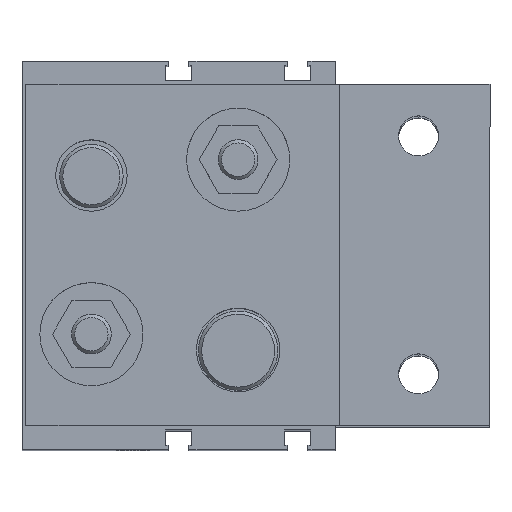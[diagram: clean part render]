
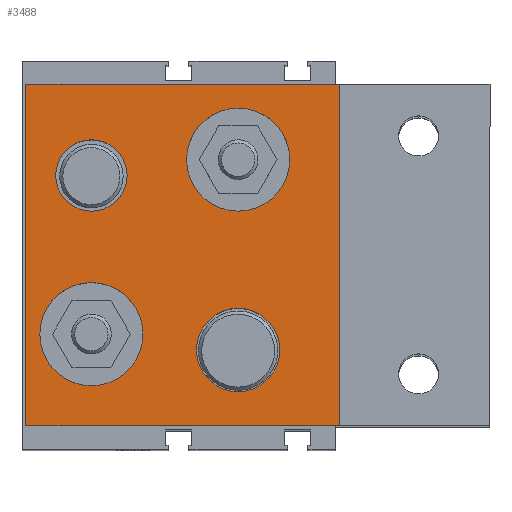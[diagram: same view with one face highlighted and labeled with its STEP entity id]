
A CAD part, top view. The second image highlights one B-rep face of the part: STEP entity #3488.
In plain terms, the highlighted planar face has unit normal (0, 0, 1) as drawn and (-1, 0, 0) by its records, which use the part's own axes.
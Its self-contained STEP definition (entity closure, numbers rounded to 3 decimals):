
#2447=CARTESIAN_POINT('',(-14.,63.5,29.5));
#2448=VERTEX_POINT('',#2447);
#2449=CARTESIAN_POINT('',(-14.,63.5,19.));
#2450=DIRECTION('',(1.0,0.0,0.0));
#2451=DIRECTION('',(0.0,0.0,1.0));
#2452=AXIS2_PLACEMENT_3D('',#2449,#2450,#2451);
#2453=CIRCLE('',#2452,10.5);
#2454=EDGE_CURVE('',#2448,#2448,#2453,.T.);
#3179=CARTESIAN_POINT('',(-14.,100.5,36.0));
#3180=VERTEX_POINT('',#3179);
#3181=CARTESIAN_POINT('',(-14.,100.5,23.));
#3182=DIRECTION('',(1.0,0.0,0.0));
#3183=DIRECTION('',(0.0,0.0,1.0));
#3184=AXIS2_PLACEMENT_3D('',#3181,#3182,#3183);
#3185=CIRCLE('',#3184,13.0);
#3186=EDGE_CURVE('',#3180,#3180,#3185,.T.);
#3224=CARTESIAN_POINT('',(-14.,63.5,80.0));
#3225=VERTEX_POINT('',#3224);
#3226=CARTESIAN_POINT('',(-14.,63.5,67.0));
#3227=DIRECTION('',(1.0,0.0,0.0));
#3228=DIRECTION('',(0.0,0.0,1.0));
#3229=AXIS2_PLACEMENT_3D('',#3226,#3227,#3228);
#3230=CIRCLE('',#3229,13.0);
#3231=EDGE_CURVE('',#3225,#3225,#3230,.T.);
#3255=CARTESIAN_POINT('',(-14.,100.5,72.0));
#3256=VERTEX_POINT('',#3255);
#3257=CARTESIAN_POINT('',(-14.,100.5,63.));
#3258=DIRECTION('',(1.0,0.0,0.0));
#3259=DIRECTION('',(0.0,0.0,1.0));
#3260=AXIS2_PLACEMENT_3D('',#3257,#3258,#3259);
#3261=CIRCLE('',#3260,9.0);
#3262=EDGE_CURVE('',#3256,#3256,#3261,.T.);
#3272=CARTESIAN_POINT('',(-14.,117.,86.0));
#3273=VERTEX_POINT('',#3272);
#3290=CARTESIAN_POINT('',(-14.,117.,0.0));
#3291=VERTEX_POINT('',#3290);
#3298=CARTESIAN_POINT('',(-14.,117.,0.0));
#3299=DIRECTION('',(0.0,0.0,1.0));
#3300=VECTOR('',#3299,86.0);
#3301=LINE('',#3298,#3300);
#3302=EDGE_CURVE('',#3291,#3273,#3301,.T.);
#3429=CARTESIAN_POINT('',(-14.,38.,86.0));
#3430=VERTEX_POINT('',#3429);
#3437=CARTESIAN_POINT('',(-14.,38.,0.0));
#3438=VERTEX_POINT('',#3437);
#3439=CARTESIAN_POINT('',(-14.,38.,0.0));
#3440=DIRECTION('',(0.0,0.0,1.0));
#3441=VECTOR('',#3440,86.0);
#3442=LINE('',#3439,#3441);
#3443=EDGE_CURVE('',#3438,#3430,#3442,.T.);
#3455=CARTESIAN_POINT('',(-14.,38.,0.0));
#3456=DIRECTION('',(-1.0,0.0,0.0));
#3457=DIRECTION('',(0.0,0.0,1.0));
#3458=AXIS2_PLACEMENT_3D('',#3455,#3456,#3457);
#3459=PLANE('',#3458);
#3460=CARTESIAN_POINT('',(-14.,38.,86.0));
#3461=DIRECTION('',(0.0,1.0,0.0));
#3462=VECTOR('',#3461,79.0);
#3463=LINE('',#3460,#3462);
#3464=EDGE_CURVE('',#3430,#3273,#3463,.T.);
#3465=ORIENTED_EDGE('',*,*,#3464,.T.);
#3466=ORIENTED_EDGE('',*,*,#3302,.F.);
#3467=CARTESIAN_POINT('',(-14.,117.,0.0));
#3468=DIRECTION('',(0.0,-1.0,0.0));
#3469=VECTOR('',#3468,79.0);
#3470=LINE('',#3467,#3469);
#3471=EDGE_CURVE('',#3291,#3438,#3470,.T.);
#3472=ORIENTED_EDGE('',*,*,#3471,.T.);
#3473=ORIENTED_EDGE('',*,*,#3443,.T.);
#3474=EDGE_LOOP('',(#3465,#3466,#3472,#3473));
#3475=FACE_OUTER_BOUND('',#3474,.T.);
#3476=ORIENTED_EDGE('',*,*,#2454,.T.);
#3477=EDGE_LOOP('',(#3476));
#3478=FACE_BOUND('',#3477,.T.);
#3479=ORIENTED_EDGE('',*,*,#3186,.T.);
#3480=EDGE_LOOP('',(#3479));
#3481=FACE_BOUND('',#3480,.T.);
#3482=ORIENTED_EDGE('',*,*,#3231,.T.);
#3483=EDGE_LOOP('',(#3482));
#3484=FACE_BOUND('',#3483,.T.);
#3485=ORIENTED_EDGE('',*,*,#3262,.T.);
#3486=EDGE_LOOP('',(#3485));
#3487=FACE_BOUND('',#3486,.T.);
#3488=ADVANCED_FACE('',(#3475,#3478,#3481,#3484,#3487),#3459,.T.);
